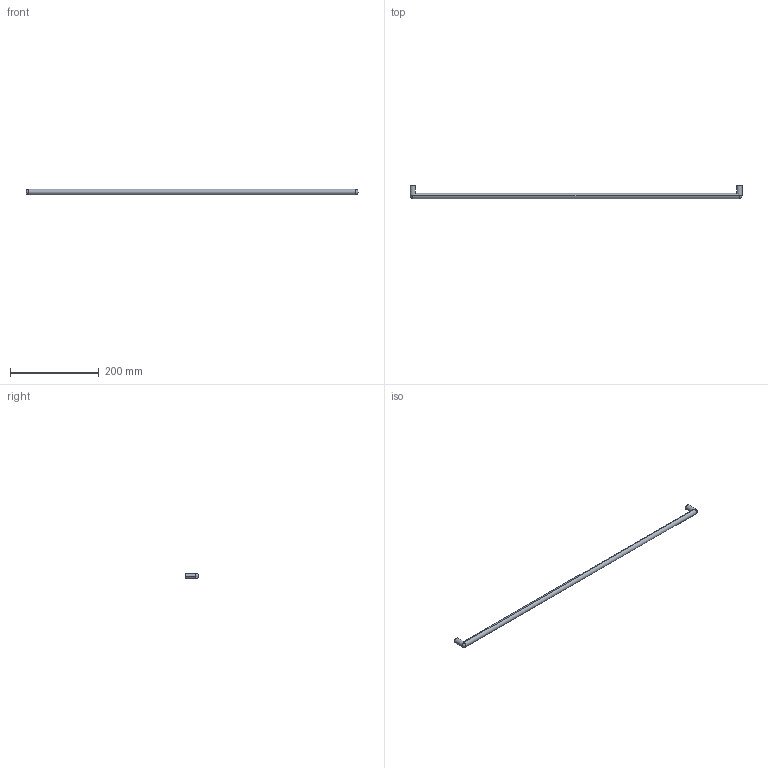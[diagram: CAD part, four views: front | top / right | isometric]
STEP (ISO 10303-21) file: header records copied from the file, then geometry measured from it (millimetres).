
FILE_DESCRIPTION( ( '' ), '1' );
FILE_NAME( 'D:/1.AUTOCAD EXPORT/Group 10/sheet_10_1/ 9071013.stp', '2013-10-17T08:30:34', ( '' ), ( '' ), ' ', ' ', ' ' );
FILE_SCHEMA( ( 'automotive_design' ) );
Length unit declared in the file: millimetre
Products named in the file (1): 1
Bounding box: 748 x 30 x 12 mm (x, y, z)
Volume: 88152 mm3; surface area: 30034.7 mm2
Topology: 1 solids, 1 shells, 16 faces, 36 edges, 20 vertices
Faces by surface type: cylinder 10, plane 4, sphere 2
Entity records: 838 total; most frequent: DIRECTION 88, STYLED_ITEM 69, PRESENTATION_STYLE_ASSIGNMENT 69, CARTESIAN_POINT 69, COLOUR_RGB 69, ORIENTED_EDGE 64, AXIS2_PLACEMENT_3D 39, EDGE_CURVE 32
